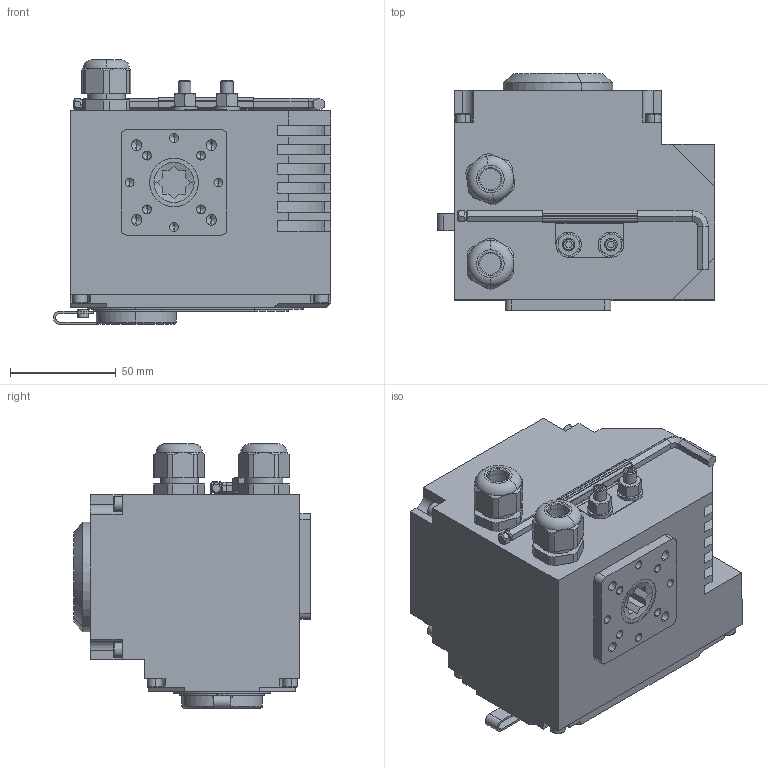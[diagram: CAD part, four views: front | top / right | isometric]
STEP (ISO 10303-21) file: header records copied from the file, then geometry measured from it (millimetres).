
FILE_DESCRIPTION (( 'STEP AP203' ), '1' );
FILE_NAME ('AOX003_3D.STEP', '2020-04-17T09:50:02', ( '' ), ( '' ), 'SwSTEP 2.0', 'SolidWorks 2017', '' );
FILE_SCHEMA (( 'CONFIG_CONTROL_DESIGN' ));
Length unit declared in the file: millimetre
Products named in the file (1): AOX003_3D
Bounding box: 131 x 112 x 125 mm (x, y, z)
Volume: 1051308.5 mm3; surface area: 82596.8 mm2
Topology: 1 solids, 4 shells, 634 faces, 1604 edges, 982 vertices
Faces by surface type: plane 354, cylinder 149, cone 100, torus 31
Entity records: 19062 total; most frequent: CARTESIAN_POINT 3835, DIRECTION 3189, ORIENTED_EDGE 3120, EDGE_CURVE 1560, AXIS2_PLACEMENT_3D 1108, VERTEX_POINT 982, VECTOR 973, LINE 973
